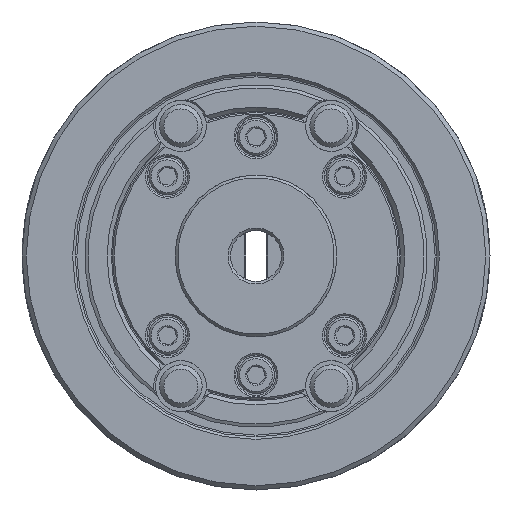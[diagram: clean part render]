
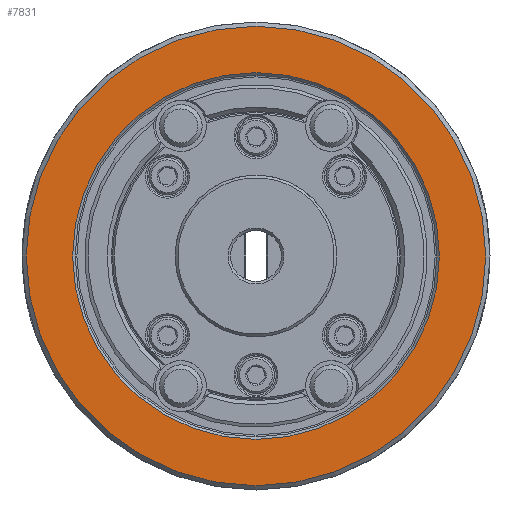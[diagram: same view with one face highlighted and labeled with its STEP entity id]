
A CAD part, left-side view. The second image highlights one B-rep face of the part: STEP entity #7831.
In plain terms, the highlighted planar face has unit normal (-1, 0, 0).
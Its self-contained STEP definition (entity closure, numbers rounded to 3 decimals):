
#451 = EDGE_CURVE ( 'NONE', #13921, #13921, #9918, .T. ) ;
#2196 = CIRCLE ( 'NONE', #61234, 43.1 ) ;
#2216 = CARTESIAN_POINT ( 'NONE',  ( -59., 0., 0. ) ) ;
#3219 = FACE_BOUND ( 'NONE', #30273, .T. ) ;
#4913 = AXIS2_PLACEMENT_3D ( 'NONE', #2216, #58617, #34463 ) ;
#7491 = AXIS2_PLACEMENT_3D ( 'NONE', #22005, #31401, #32636 ) ;
#7831 = ADVANCED_FACE ( 'NONE', ( #32325, #3219 ), #41726, .F. ) ;
#9918 = CIRCLE ( 'NONE', #4913, 54. ) ;
#10554 = CARTESIAN_POINT ( 'NONE',  ( -59., 0., 0. ) ) ;
#13921 = VERTEX_POINT ( 'NONE', #52141 ) ;
#14609 = DIRECTION ( 'NONE',  ( 0., 0., -1. ) ) ;
#22005 = CARTESIAN_POINT ( 'NONE',  ( -59., -43.1, 0. ) ) ;
#29106 = ORIENTED_EDGE ( 'NONE', *, *, #61671, .T. ) ;
#30273 = EDGE_LOOP ( 'NONE', ( #29106 ) ) ;
#31401 = DIRECTION ( 'NONE',  ( 1., 0., 0. ) ) ;
#32325 = FACE_OUTER_BOUND ( 'NONE', #42822, .T. ) ;
#32636 = DIRECTION ( 'NONE',  ( 0., 0., -1. ) ) ;
#32735 = ORIENTED_EDGE ( 'NONE', *, *, #451, .F. ) ;
#34463 = DIRECTION ( 'NONE',  ( 0., 0., -1. ) ) ;
#41726 = PLANE ( 'NONE',  #7491 ) ;
#42822 = EDGE_LOOP ( 'NONE', ( #32735 ) ) ;
#52141 = CARTESIAN_POINT ( 'NONE',  ( -59., 0., -54. ) ) ;
#56023 = VERTEX_POINT ( 'NONE', #60430 ) ;
#58175 = DIRECTION ( 'NONE',  ( 1., 0., 0. ) ) ;
#58617 = DIRECTION ( 'NONE',  ( 1., 0., 0. ) ) ;
#60430 = CARTESIAN_POINT ( 'NONE',  ( -59., 0., -43.1 ) ) ;
#61234 = AXIS2_PLACEMENT_3D ( 'NONE', #10554, #58175, #14609 ) ;
#61671 = EDGE_CURVE ( 'NONE', #56023, #56023, #2196, .T. ) ;
